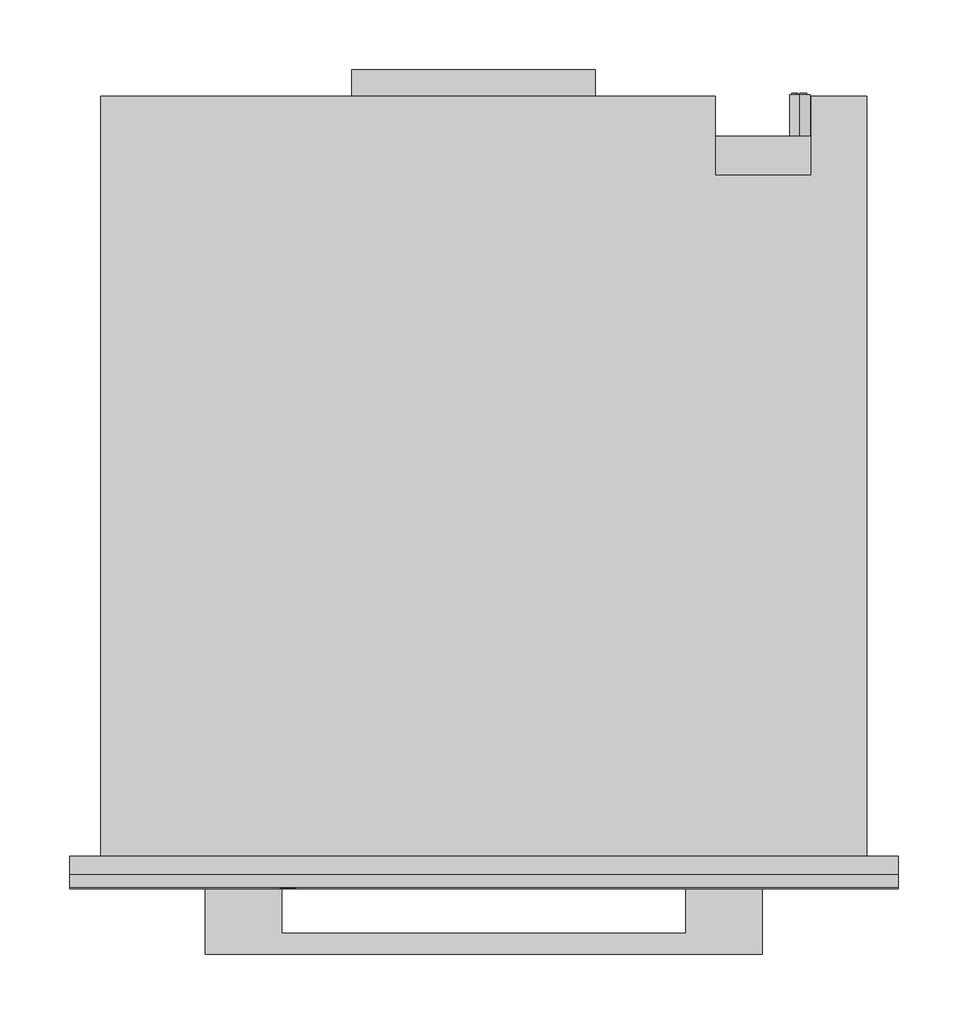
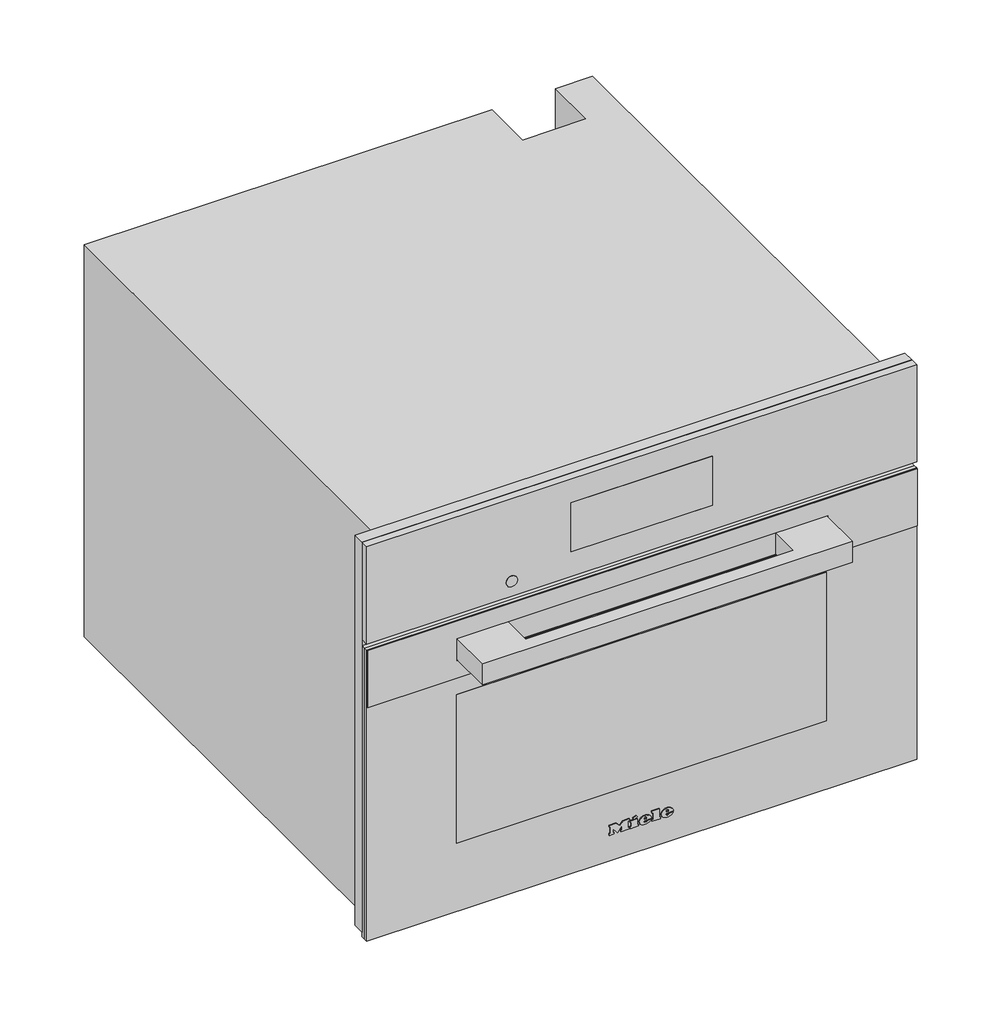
# Not in any storey: 1 proxy.
"""IFC4 building model written with IfcOpenShell, lengths in millimetres."""

import ifcopenshell
import ifcopenshell.guid

model = None  # the IFC model being written
_history = None  # IfcOwnerHistory: only IFC2X3 demands one
_inside = {}  # id of a spatial element -> (the spatial element, [elements in it])
_under = {}  # id of a project, library or spatial element -> (it, [spatial elements below it])
_declared = {}  # id of a project -> (the project, [libraries it declares])
_typed = {}  # id of a type object -> (the type object, [elements of that type])
_made_of = {}  # id of a material, layer set ... -> (it, [elements and type objects made of it])


def new_model(schema):
    """Start an empty IFC model of exactly this schema.

    Asked for "IFC4X3", IfcOpenShell would pick the latest addendum, in which some entities
    have other attributes; the version numbers below select the first issue.
    IFC2X3 requires an IfcOwnerHistory on every rooted entity: one is made here for all.
    """
    global model, _history
    if schema == "IFC4X3":
        model = ifcopenshell.file(schema_version=(4, 3, 0, 0))
    else:
        model = ifcopenshell.file(schema=schema)
    _inside.clear()
    _under.clear()
    _declared.clear()
    _typed.clear()
    _made_of.clear()
    _history = None
    if model.schema == "IFC2X3":
        org = make("IfcOrganization", Name="unknown")
        user = make(
            "IfcPersonAndOrganization",
            ThePerson=make("IfcPerson", FamilyName="unknown"),
            TheOrganization=org,
        )
        app = make(
            "IfcApplication",
            ApplicationDeveloper=org,
            Version="unknown",
            ApplicationFullName="unknown",
            ApplicationIdentifier="unknown",
        )
        _history = make(
            "IfcOwnerHistory",
            OwningUser=user,
            OwningApplication=app,
            ChangeAction="ADDED",
            CreationDate=0,
        )
    return model


def make(cls, **values):
    """One entity of the class cls with the attributes given. An attribute that is None is left unset."""
    return model.create_entity(
        cls, **{name: value for name, value in values.items() if value is not None}
    )


def rooted(cls, **values):
    """An entity with a GlobalId (a new one), such as an element, a storey or a relation."""
    return make(cls, GlobalId=ifcopenshell.guid.new(), OwnerHistory=_history, **values)


def si_unit(unit_type, name, prefix=None):
    """IfcSIUnit, for example si_unit("LENGTHUNIT", "METRE", prefix="MILLI")."""
    return make("IfcSIUnit", UnitType=unit_type, Prefix=prefix, Name=name)


def assignment(units):
    """IfcUnitAssignment: the units of a project."""
    return None if units is None else make("IfcUnitAssignment", Units=units)


def point(xyz):
    """IfcCartesianPoint."""
    return None if xyz is None else make("IfcCartesianPoint", Coordinates=xyz)


def direction(xyz):
    """IfcDirection."""
    return None if xyz is None else make("IfcDirection", DirectionRatios=xyz)


def frame(location, z_axis=None, x_axis=None):
    """IfcAxis2Placement3D, a coordinate frame: its origin and axes. An axis left out is left unset."""
    return make(
        "IfcAxis2Placement3D",
        Location=point(location),
        Axis=direction(z_axis),
        RefDirection=direction(x_axis),
    )


def frame_2d(location, x_axis=None):
    """IfcAxis2Placement2D, a coordinate frame in the plane: its origin and x axis."""
    return make(
        "IfcAxis2Placement2D", Location=point(location), RefDirection=direction(x_axis)
    )


def origin():
    """The frame at (0, 0, 0) with its axes left unset."""
    return frame((0.0, 0.0, 0.0))


def place(relative_to, where):
    """IfcLocalPlacement: puts the frame where relative to a parent placement (None: the world)."""
    return make(
        "IfcLocalPlacement", PlacementRelTo=relative_to, RelativePlacement=where
    )


def context(
    kind, dimensions, precision=None, world=None, true_north=None, identifier=None
):
    """IfcGeometricRepresentationContext, for example the 3D "Model" context."""
    return make(
        "IfcGeometricRepresentationContext",
        ContextIdentifier=identifier,
        ContextType=kind,
        CoordinateSpaceDimension=dimensions,
        Precision=precision,
        WorldCoordinateSystem=world,
        TrueNorth=true_north,
    )


def project(units=None, contexts=None):
    """IfcProject with its units and contexts."""
    return rooted(
        "IfcProject",
        Name="project",
        RepresentationContexts=contexts,
        UnitsInContext=assignment(units),
    )


def spatial(cls, under=None, at=None, **own):
    """A site, building, storey or space (cls), placed at a placement, below another one or the project."""
    s = rooted(cls, ObjectPlacement=at, **own)
    if under is not None:
        _under.setdefault(under.id(), (under, []))[1].append(s)
    return s


def polyline(points):
    """IfcPolyline through the points."""
    return make("IfcPolyline", Points=[point(p) for p in points])


def circle_curve(where, radius):
    """IfcCircle in the frame where."""
    return make("IfcCircle", Position=where, Radius=radius)


def ellipse_curve(where, semi_axis1, semi_axis2):
    """IfcEllipse in the frame where."""
    return make(
        "IfcEllipse", Position=where, SemiAxis1=semi_axis1, SemiAxis2=semi_axis2
    )


def trimmed(basis, trim1, trim2, sense, master):
    """IfcTrimmedCurve: the piece of a basis curve between two trims."""
    return make(
        "IfcTrimmedCurve",
        BasisCurve=basis,
        Trim1=trim1,
        Trim2=trim2,
        SenseAgreement=sense,
        MasterRepresentation=master,
    )


def segment(curve, same_sense, transition):
    """IfcCompositeCurveSegment."""
    return make(
        "IfcCompositeCurveSegment",
        Transition=transition,
        SameSense=same_sense,
        ParentCurve=curve,
    )


def composite_curve(segments, self_intersect=None):
    """IfcCompositeCurve: segments joined end to end."""
    return make("IfcCompositeCurve", Segments=segments, SelfIntersect=self_intersect)


def outline(outer, holes=None, kind="AREA"):
    """IfcArbitraryClosedProfileDef: a profile drawn as a closed curve; with holes, ...WithVoids."""
    if holes is None:
        return make("IfcArbitraryClosedProfileDef", ProfileType=kind, OuterCurve=outer)
    return make(
        "IfcArbitraryProfileDefWithVoids",
        ProfileType=kind,
        OuterCurve=outer,
        InnerCurves=holes,
    )


def extrude(swept, where, along, depth):
    """IfcExtrudedAreaSolid: the profile swept, set in the frame where, extruded along a direction by depth."""
    return make(
        "IfcExtrudedAreaSolid",
        SweptArea=swept,
        Position=where,
        ExtrudedDirection=direction(along),
        Depth=depth,
    )


def faces_of(points, faces, orient=None, outer=None):
    """IfcFace entities. A face is a list of loops; a loop is a list of indices into points, from 0.

    orient and outer hold one flag for each loop. By default every Orientation is true, the
    first loop of a face is its IfcFaceOuterBound and the others are IfcFaceBound.
    """
    made = []
    for i, loops in enumerate(faces):
        bounds = []
        for j, loop in enumerate(loops):
            is_outer = j == 0 if outer is None else outer[i][j]
            bounds.append(
                make(
                    "IfcFaceOuterBound" if is_outer else "IfcFaceBound",
                    Bound=make("IfcPolyLoop", Polygon=[points[k] for k in loop]),
                    Orientation=True if orient is None else orient[i][j],
                )
            )
        made.append(make("IfcFace", Bounds=bounds))
    return made


def faceted_brep(points, faces, orient=None, outer=None, voids=None):
    """IfcFacetedBrep: a solid bounded by flat faces; with voids (closed shells), ...WithVoids."""
    shared = [point(p) for p in points]
    hull = make("IfcClosedShell", CfsFaces=faces_of(shared, faces, orient, outer))
    if voids is None:
        return make("IfcFacetedBrep", Outer=hull)
    return make(
        "IfcFacetedBrepWithVoids",
        Outer=hull,
        Voids=[
            make(cls, CfsFaces=faces_of(shared, fs, o, b)) for cls, fs, o, b in voids
        ],
    )


def shape(context_of_items, identifier, shape_type, items):
    """IfcShapeRepresentation: the items that make up one representation, for example the "Body"."""
    return make(
        "IfcShapeRepresentation",
        ContextOfItems=context_of_items,
        RepresentationIdentifier=identifier,
        RepresentationType=shape_type,
        Items=items,
    )


def source(mapping_origin, context_of_items, identifier, shape_type, items):
    """IfcRepresentationMap: a shape defined once, which mapped items show again and again."""
    return make(
        "IfcRepresentationMap",
        MappingOrigin=mapping_origin,
        MappedRepresentation=shape(context_of_items, identifier, shape_type, items),
    )


def transform(
    local_origin,
    x_axis=None,
    y_axis=None,
    z_axis=None,
    scale=None,
    scale2=None,
    scale3=None,
    uniform=True,
):
    """IfcCartesianTransformationOperator3D, or its non-uniform kind. x_axis, y_axis, z_axis: its Axis1, 2, 3."""
    if uniform:
        return make(
            "IfcCartesianTransformationOperator3D",
            Axis1=direction(x_axis),
            Axis2=direction(y_axis),
            LocalOrigin=point(local_origin),
            Scale=scale,
            Axis3=direction(z_axis),
        )
    return make(
        "IfcCartesianTransformationOperator3DnonUniform",
        Axis1=direction(x_axis),
        Axis2=direction(y_axis),
        LocalOrigin=point(local_origin),
        Scale=scale,
        Axis3=direction(z_axis),
        Scale2=scale2,
        Scale3=scale3,
    )


def mapped(mapping_source, mapping_target):
    """IfcMappedItem: shows the shape of a source again, moved by a transform."""
    return make(
        "IfcMappedItem", MappingSource=mapping_source, MappingTarget=mapping_target
    )


def made_of(thing, what):
    """Note that an element or type object is made of a material, layer set ...; save() writes the relation."""
    if what is not None:
        _made_of.setdefault(what.id(), (what, []))[1].append(thing)
    return thing


def element(
    cls,
    number,
    at=None,
    inside=None,
    cuts=None,
    type_object=None,
    material=None,
    context=None,
    identifier="Body",
    shape_type=None,
    held_by="IfcProductDefinitionShape",
    body=None,
    shapes=None,
    **own,
):
    """One element of the class cls, such as IfcWall. Its Tag is "e" and its number.

    at: its placement. inside: the storey or other place that contains it. cuts: it is an
    opening in that element (IfcRelVoidsElement). A single representation is given by context,
    identifier, shape_type and body (its items); several are given by shapes. held_by: the class
    of the entity that holds the representations. save() writes the other relations.
    """
    e = rooted(cls, Tag="e%d" % number, ObjectPlacement=at, **own)
    if body is not None:
        shapes = [shape(context, identifier, shape_type, body)]
    if shapes is not None:
        e.Representation = make(held_by, Representations=shapes)
    if inside is not None:
        _inside.setdefault(inside.id(), (inside, []))[1].append(e)
    if cuts is not None:
        rooted(
            "IfcRelVoidsElement", RelatingBuildingElement=cuts, RelatedOpeningElement=e
        )
    if type_object is not None:
        _typed.setdefault(type_object.id(), (type_object, []))[1].append(e)
    return made_of(e, material)


def aggregate(whole, parts):
    """IfcRelAggregates: a whole, such as a stair, and the parts it consists of."""
    return rooted("IfcRelAggregates", RelatingObject=whole, RelatedObjects=parts)


def save(model, path):
    """Write the relations noted so far, then the file.

    IfcRelAggregates (storeys below a building ...), IfcRelContainedInSpatialStructure (elements
    in a storey), IfcRelDefinesByType, IfcRelAssociatesMaterial and IfcRelDeclares: one each for
    every whole, place, type object, material and project.
    """
    for whole, parts in _under.values():
        aggregate(whole, parts)
    for where, things in _inside.values():
        rooted(
            "IfcRelContainedInSpatialStructure",
            RelatedElements=things,
            RelatingStructure=where,
        )
    for kind, things in _typed.values():
        rooted("IfcRelDefinesByType", RelatedObjects=things, RelatingType=kind)
    for what, things in _made_of.values():
        rooted("IfcRelAssociatesMaterial", RelatedObjects=things, RelatingMaterial=what)
    for by, libraries in _declared.values():
        rooted("IfcRelDeclares", RelatingContext=by, RelatedDefinitions=libraries)
    model.write(path)


def plane_surface(at):
    """IfcPlane: the flat surface through the origin of the frame at, square to its z axis."""
    return make("IfcPlane", Position=at)


def cylinder_surface(at, radius):
    """IfcCylindricalSurface: all points at the distance radius from the z axis of the frame at."""
    return make("IfcCylindricalSurface", Position=at, Radius=radius)


def revolved_surface(curve, axis_point, axis_direction):
    """IfcSurfaceOfRevolution: the curve turned about the line through axis_point along axis_direction."""
    return make(
        "IfcSurfaceOfRevolution",
        SweptCurve=make("IfcArbitraryOpenProfileDef", ProfileType="CURVE", Curve=curve),
        AxisPosition=make("IfcAxis1Placement", Location=point(axis_point), Axis=direction(axis_direction)),
    )


def extruded_surface(curve, direction_of_extrusion, depth):
    """IfcSurfaceOfLinearExtrusion: the curve pushed along a direction by depth."""
    return make(
        "IfcSurfaceOfLinearExtrusion",
        SweptCurve=make("IfcArbitraryOpenProfileDef", ProfileType="CURVE", Curve=curve),
        ExtrudedDirection=direction(direction_of_extrusion),
        Depth=depth,
    )


def advanced_brep(points, edges, surfaces, faces):
    """IfcAdvancedBrep: a solid bounded by faces that lie on surfaces and meet in shared edges.

    An edge is (start, end): straight between two places in points (the first is 0);
    or (start, end, curve); or (start, end, curve, False) where it runs against its curve.
    A face is (place in surfaces, loops), or (place, loops, False) where it looks against
    its surface's normal. A loop lists edges by number (the first is 1), with a minus sign
    where the edge is run from its end to its start. The first loop is the outer one.
    """
    corners = [point(p) for p in points]
    vertices = [make("IfcVertexPoint", VertexGeometry=c) for c in corners]
    made = []
    for start, end, *more in edges:
        made.append(
            make(
                "IfcEdgeCurve",
                EdgeStart=vertices[start],
                EdgeEnd=vertices[end],
                EdgeGeometry=more[0] if more else make("IfcPolyline", Points=[corners[start], corners[end]]),
                SameSense=more[1] if len(more) > 1 else True,
            )
        )
    hull = []
    for where, loops, *sense in faces:
        bounds = []
        for j, loop in enumerate(loops):
            ring = [make("IfcOrientedEdge", EdgeElement=made[abs(k) - 1], Orientation=k > 0) for k in loop]
            bounds.append(
                make(
                    "IfcFaceOuterBound" if j == 0 else "IfcFaceBound",
                    Bound=make("IfcEdgeLoop", EdgeList=ring),
                    Orientation=True,
                )
            )
        hull.append(make("IfcAdvancedFace", Bounds=bounds, FaceSurface=surfaces[where], SameSense=sense[0] if sense else True))
    return make("IfcAdvancedBrep", Outer=make("IfcClosedShell", CfsFaces=hull))


def specialty_equipment_723d5806(model_context):
    return source(origin(), model_context, "Body", "SolidModel", [
        extrude(outline(polyline([(455.0, 297.5), (455.0, -297.5), (9.0, -297.5), (9.0, 297.5), (455.0, 297.5)]), holes=[polyline([(344.0, -272.5), (344.0, 272.5), (27.0, 272.5), (27.0, -272.5), (344.0, -272.5)])]), frame((0.0, -13.0, 0.0), z_axis=(0.0, 1.0, 0.0), x_axis=(0.0, 0.0, 1.0)), (0.0, 0.0, 1.0), 13.0),
        extrude(outline(polyline([(-95.0, 565.0), (80.0, 565.0), (80.0, 546.0), (-95.0, 546.0), (-95.0, 565.0)])), frame((0.0, 0.0, 260.0), z_axis=(0.0, 0.0, 1.0), x_axis=(1.0, 0.0, 0.0)), (0.0, 0.0, 1.0), 1.0),
        advanced_brep(
        [(227.0, 547.0, 255.5), (227.0, 547.0, 240.5), (221.4098301, 547.0, 243.0), (225.5, 547.0, 243.0), (225.5, 547.0, 253.0), (224.4955303, 547.0, 253.0), (224.4955303, 547.0, 244.0), (221.0315043, 547.0, 244.0), (221.0315043, 547.0, 243.4582978), (232.0, 547.0, 243.0), (232.0, 547.0, 253.0), (227.0, 547.0, 253.0), (227.0, 547.0, 252.0), (231.0, 547.0, 252.0), (231.0, 547.0, 248.5), (228.0, 547.0, 248.5), (228.0, 547.0, 247.5), (231.0, 547.0, 247.5), (231.0, 547.0, 244.0), (227.0, 547.0, 244.0), (227.0, 547.0, 243.0), (227.0, 517.0, 240.5), (227.0, 517.0, 255.5), (232.0, 548.0, 253.0), (232.0, 548.0, 243.0), (227.0, 548.0, 243.0), (227.0, 548.0, 244.0), (231.0, 548.0, 244.0), (231.0, 548.0, 247.5), (228.0, 548.0, 247.5), (228.0, 548.0, 248.5), (231.0, 548.0, 248.5), (231.0, 548.0, 252.0), (227.0, 548.0, 252.0), (227.0, 548.0, 253.0), (225.5, 548.0, 243.0), (221.0315043, 548.0, 243.0), (221.0315043, 548.0, 244.0), (224.4955303, 548.0, 244.0), (224.4955303, 548.0, 253.0), (225.5, 548.0, 253.0), (221.0315043, 547.0, 243.0)],
        [
            (0, 1, circle_curve(frame((227.0, 547.0, 248.0), z_axis=(0.0, 1.0, 0.0), x_axis=(0.0, 0.0, 1.0)), 7.5)),
            (1, 2, circle_curve(frame((227.0, 547.0, 248.0), z_axis=(0.0, 1.0, 0.0), x_axis=(0.0, 0.0, 1.0)), 7.5)),
            (2, 3),
            (3, 4),
            (4, 5),
            (5, 6),
            (6, 7),
            (7, 8),
            (8, 0, circle_curve(frame((227.0, 547.0, 248.0), z_axis=(0.0, 1.0, 0.0), x_axis=(0.0, 0.0, 1.0)), 7.5)),
            (9, 10),
            (10, 11),
            (11, 12),
            (12, 13),
            (13, 14),
            (14, 15),
            (15, 16),
            (16, 17),
            (17, 18),
            (18, 19),
            (19, 20),
            (20, 9),
            (21, 22, circle_curve(frame((227.0, 517.0, 248.0), z_axis=(0.0, -1.0, 0.0), x_axis=(0.0, 0.0, 1.0)), 7.5)),
            (22, 21, circle_curve(frame((227.0, 517.0, 248.0), z_axis=(0.0, -1.0, 0.0), x_axis=(0.0, 0.0, 1.0)), 7.5)),
            (0, 22),
            (21, 1),
            (8, 2, circle_curve(frame((227.0, 547.0, 248.0), z_axis=(0.0, -1.0, 0.0), x_axis=(0.0, 0.0, 1.0)), 7.5)),
            (23, 24),
            (24, 25),
            (25, 26),
            (26, 27),
            (27, 28),
            (28, 29),
            (29, 30),
            (30, 31),
            (31, 32),
            (32, 33),
            (33, 34),
            (34, 23),
            (35, 36),
            (36, 37),
            (37, 38),
            (38, 39),
            (39, 40),
            (40, 35),
            (8, 41),
            (41, 2),
            (23, 10),
            (9, 24),
            (20, 25),
            (19, 26),
            (18, 27),
            (17, 28),
            (16, 29),
            (15, 30),
            (14, 31),
            (13, 32),
            (12, 33),
            (11, 34),
            (35, 3),
            (41, 36),
            (7, 37),
            (6, 38),
            (5, 39),
            (4, 40),
        ],
        [
            plane_surface(frame((227.0, 547.0, 255.5), z_axis=(0.0, 1.0, 0.0), x_axis=(1.0, 0.0, 0.0))),
            plane_surface(frame((227.0, 517.0, 255.5), z_axis=(0.0, -1.0, 0.0), x_axis=(-1.0, 0.0, 0.0))),
            cylinder_surface(frame((227.0, 547.0, 248.0), z_axis=(0.0, -1.0, 0.0), x_axis=(0.0, 0.0, 1.0)), 7.5),
            plane_surface(frame((232.0, 548.0, 253.0), z_axis=(0.0, 1.0, 0.0), x_axis=(0.0, 0.0, -1.0))),
            plane_surface(frame((232.0, 547.0, 253.0), z_axis=(0.0, -1.0, 0.0), x_axis=(0.0, 0.0, 1.0))),
            plane_surface(frame((232.0, 548.0, 253.0), z_axis=(1.0, 0.0, 0.0), x_axis=(0.0, -1.0, 0.0))),
            plane_surface(frame((232.0, 548.0, 243.0), z_axis=(0.0, 0.0, -1.0), x_axis=(0.0, -1.0, 0.0))),
            plane_surface(frame((227.0, 548.0, 243.0), z_axis=(-1.0, 0.0, 0.0), x_axis=(0.0, -1.0, 0.0))),
            plane_surface(frame((227.0, 548.0, 244.0), z_axis=(0.0, 0.0, 1.0), x_axis=(0.0, -1.0, 0.0))),
            plane_surface(frame((231.0, 548.0, 244.0), z_axis=(-1.0, 0.0, 0.0), x_axis=(0.0, -1.0, 0.0))),
            plane_surface(frame((231.0, 548.0, 247.5), z_axis=(0.0, 0.0, -1.0), x_axis=(0.0, -1.0, 0.0))),
            plane_surface(frame((228.0, 548.0, 247.5), z_axis=(-1.0, 0.0, 0.0), x_axis=(0.0, -1.0, 0.0))),
            plane_surface(frame((228.0, 548.0, 248.5), z_axis=(0.0, 0.0, 1.0), x_axis=(0.0, -1.0, 0.0))),
            plane_surface(frame((231.0, 548.0, 248.5), z_axis=(-1.0, 0.0, 0.0), x_axis=(0.0, -1.0, 0.0))),
            plane_surface(frame((231.0, 548.0, 252.0), z_axis=(0.0, 0.0, -1.0), x_axis=(0.0, -1.0, 0.0))),
            plane_surface(frame((227.0, 548.0, 252.0), z_axis=(-1.0, 0.0, 0.0), x_axis=(0.0, -1.0, 0.0))),
            plane_surface(frame((227.0, 548.0, 253.0), z_axis=(0.0, 0.0, 1.0), x_axis=(0.0, -1.0, 0.0))),
            plane_surface(frame((225.5, 548.0, 243.0), z_axis=(0.0, 0.0, -1.0), x_axis=(0.0, -1.0, 0.0))),
            plane_surface(frame((221.0315043, 548.0, 243.0), z_axis=(-1.0, 0.0, 0.0), x_axis=(0.0, -1.0, 0.0))),
            plane_surface(frame((221.0315043, 548.0, 244.0), z_axis=(0.0, 0.0, 1.0), x_axis=(0.0, -1.0, 0.0))),
            plane_surface(frame((224.4955303, 548.0, 244.0), z_axis=(-1.0, 0.0, 0.0), x_axis=(0.0, -1.0, 0.0))),
            plane_surface(frame((224.4955303, 548.0, 253.0), z_axis=(0.0, 0.0, 1.0), x_axis=(0.0, -1.0, 0.0))),
            plane_surface(frame((225.5, 548.0, 253.0), z_axis=(1.0, 0.0, 0.0), x_axis=(0.0, -1.0, 0.0))),
        ],
        [
            (0, [[1, 2, 3, 4, 5, 6, 7, 8, 9], [10, 11, 12, 13, 14, 15, 16, 17, 18, 19, 20, 21]]),
            (1, [[22, 23]]),
            (2, [[-1, 24, -22, 25]]),
            (2, [[-23, -24, -9, 26, -2, -25]]),
            (3, [[27, 28, 29, 30, 31, 32, 33, 34, 35, 36, 37, 38]]),
            (3, [[39, 40, 41, 42, 43, 44]]),
            (4, [[45, 46, -26]]),
            (5, [[-27, 47, -10, 48]]),
            (6, [[-28, -48, -21, 49]]),
            (7, [[-29, -49, -20, 50]]),
            (8, [[-30, -50, -19, 51]]),
            (9, [[-31, -51, -18, 52]]),
            (10, [[-32, -52, -17, 53]]),
            (11, [[-33, -53, -16, 54]]),
            (12, [[-34, -54, -15, 55]]),
            (13, [[-35, -55, -14, 56]]),
            (14, [[-36, -56, -13, 57]]),
            (15, [[-37, -57, -12, 58]]),
            (16, [[-38, -58, -11, -47]]),
            (17, [[-39, 59, -3, -46, 60]]),
            (18, [[-40, -60, -45, -8, 61]]),
            (19, [[-41, -61, -7, 62]]),
            (20, [[-42, -62, -6, 63]]),
            (21, [[-43, -63, -5, 64]]),
            (22, [[-44, -64, -4, -59]]),
        ],
    ),
        faceted_brep([(-275.0, 546.0, 0.0), (-275.0, 546.0, 448.0), (166.0, 546.0, 448.0), (166.0, 546.0, 0.0), (235.0, 546.0, 448.0), (275.0, 546.0, 448.0), (275.0, 546.0, 338.0), (235.0, 546.0, 338.0), (275.0, 0.0, 448.0), (-275.0, 0.0, 448.0), (-275.0, 0.0, 0.0), (275.0, 0.0, 0.0), (-272.5, 0.0, 344.0), (272.5, 0.0, 344.0), (272.5, 0.0, 27.0), (-272.5, 0.0, 27.0), (235.0, 489.0, 448.0), (166.0, 489.0, 448.0), (166.0, 517.0, 0.0), (275.0, 517.0, 0.0), (275.0, 517.0, 338.0), (272.5, 17.0, 344.0), (-272.5, 17.0, 344.0), (-272.5, 17.0, 27.0), (272.5, 17.0, 27.0), (231.0, 17.0, 307.0), (231.0, 17.0, 65.0), (-231.0, 17.0, 65.0), (-231.0, 17.0, 307.0), (231.0, 411.0, 307.0), (-231.0, 411.0, 307.0), (-231.0, 411.0, 65.0), (231.0, 411.0, 65.0), (235.0, 489.0, 337.0), (166.0, 489.0, 337.0), (166.0, 517.0, 337.0), (235.0, 517.0, 337.0), (235.0, 517.0, 338.0)], [[[0, 1, 2, 3]], [[4, 5, 6, 7]], [[8, 9, 10, 11], [12, 13, 14, 15]], [[9, 8, 5, 4, 16, 17, 2, 1]], [[1, 0, 10, 9]], [[11, 10, 0, 3, 18, 19]], [[8, 11, 19, 20, 6, 5]], [[21, 22, 23, 24], [25, 26, 27, 28]], [[22, 21, 13, 12]], [[23, 22, 12, 15]], [[24, 23, 15, 14]], [[21, 24, 14, 13]], [[29, 30, 31, 32]], [[29, 32, 26, 25]], [[32, 31, 27, 26]], [[31, 30, 28, 27]], [[30, 29, 25, 28]], [[16, 33, 34, 17]], [[17, 34, 35, 18, 3, 2]], [[34, 33, 36, 35]], [[33, 16, 4, 7, 37, 36]], [[37, 20, 19, 18, 35, 36]], [[20, 37, 7, 6]]]),
        advanced_brep(
        [(26.2998, -23.0, 36.7018), (26.2998, -23.0, 37.8532), (33.9264, -23.0, 37.8532), (20.6568, -23.0, 37.8532), (23.7918, -23.0, 34.0), (33.7326, -23.0, 36.7018), (30.2898, -23.0, 36.7018), (27.5766, -23.0, 35.425), (26.2998, -23.0, 39.3124), (26.2998, -23.0, 40.555), (28.2492, -23.0, 40.555), (28.2492, -23.0, 39.3124), (26.2998, -22.0, 36.7018), (27.5766, -22.0, 35.425), (30.2898, -22.0, 36.7018), (33.7326, -22.0, 36.7018), (23.7918, -22.0, 34.0), (20.6568, -22.0, 37.8532), (33.9264, -22.0, 37.8532), (26.2998, -22.0, 37.8532), (26.2998, -22.0, 39.3124), (28.2492, -22.0, 39.3124), (28.2492, -22.0, 40.555), (26.2998, -22.0, 40.555)],
        [
            (0, 1),
            (1, 2),
            (2, 3, ellipse_curve(frame((27.2916, -23.0, 37.8532), z_axis=(0.0, -1.0, 0.0), x_axis=(-1.0, 0.0, 0.0)), 6.6348, 5.4834)),
            (3, 4, circle_curve(frame((25.0686622, -23.0, 38.2408), z_axis=(0.0, -1.0, 0.0), x_axis=(0.0, 0.0, -1.0)), 4.4288556)),
            (4, 5, circle_curve(frame((27.1587808, -23.0, 41.2504), z_axis=(0.0, -1.0, 0.0), x_axis=(0.0, 0.0, -1.0)), 7.9940516)),
            (5, 6),
            (6, 7, circle_curve(frame((28.1338588, -23.0, 37.762), z_axis=(0.0, 1.0, 0.0), x_axis=(0.0, 0.0, -1.0)), 2.4025208)),
            (7, 0, circle_curve(frame((27.5766, -23.0, 36.7018), z_axis=(0.0, 1.0, 0.0), x_axis=(0.0, 0.0, -1.0)), 1.2768)),
            (8, 9),
            (9, 10, circle_curve(frame((27.2745, -23.0, 40.555), z_axis=(0.0, 1.0, 0.0), x_axis=(0.0, 0.0, -1.0)), 0.9747)),
            (10, 11),
            (11, 8),
            (12, 13, circle_curve(frame((27.5766, -22.0, 36.7018), z_axis=(0.0, -1.0, 0.0), x_axis=(0.0, 0.0, -1.0)), 1.2768)),
            (13, 14, circle_curve(frame((28.1338588, -22.0, 37.762), z_axis=(0.0, -1.0, 0.0), x_axis=(0.0, 0.0, -1.0)), 2.4025208)),
            (14, 15),
            (15, 16, circle_curve(frame((27.1587808, -22.0, 41.2504), z_axis=(0.0, 1.0, 0.0), x_axis=(0.0, 0.0, -1.0)), 7.9940516)),
            (16, 17, circle_curve(frame((25.0686622, -22.0, 38.2408), z_axis=(0.0, 1.0, 0.0), x_axis=(0.0, 0.0, -1.0)), 4.4288556)),
            (17, 18, ellipse_curve(frame((27.2916, -22.0, 37.8532), z_axis=(0.0, 1.0, 0.0), x_axis=(-1.0, 0.0, 0.0)), 6.6348, 5.4834)),
            (18, 19),
            (19, 12),
            (20, 21),
            (21, 22),
            (22, 23, circle_curve(frame((27.2745, -22.0, 40.555), z_axis=(0.0, -1.0, 0.0), x_axis=(0.0, 0.0, -1.0)), 0.9747)),
            (23, 20),
            (0, 12),
            (19, 1),
            (18, 2),
            (5, 15),
            (14, 6),
            (17, 3),
            (13, 7),
            (16, 4),
            (8, 20),
            (23, 9),
            (22, 10),
            (21, 11),
        ],
        [
            plane_surface(frame((26.2998, -23.0, 37.8532), z_axis=(0.0, -1.0, 0.0), x_axis=(0.0, 0.0, 1.0))),
            plane_surface(frame((26.2998, -22.0, 37.8532), z_axis=(0.0, 1.0, 0.0), x_axis=(0.0, 0.0, -1.0))),
            plane_surface(frame((26.2998, -23.0, 36.7018), z_axis=(1.0, 0.0, 0.0), x_axis=(0.0, 1.0, 0.0))),
            plane_surface(frame((26.2998, -23.0, 37.8532), z_axis=(0.0, 0.0, -1.0), x_axis=(0.0, 1.0, 0.0))),
            plane_surface(frame((33.7326, -23.0, 36.7018), z_axis=(0.0, 0.0, 1.0), x_axis=(0.0, 1.0, 0.0))),
            extruded_surface(trimmed(ellipse_curve(frame((27.2916, -21.0, 37.8532), z_axis=(0.0, -1.0, 0.0), x_axis=(-1.0, 0.0, 0.0)), 6.6348, 5.4834), [point((33.9264, -21.0, 37.8532))], [point((20.6568, -21.0, 37.8532))], True, "CARTESIAN"), (0.0, -1.0, 0.0), 1.0),
            revolved_surface(polyline([(28.1338588, -22.0, 35.3594792), (28.1338588, -23.0, 35.3594792)]), (28.1338588, -22.0, 37.762), (0.0, 1.0, 0.0)),
            revolved_surface(polyline([(27.5766, -22.0, 35.425), (27.5766, -23.0, 35.425)]), (27.5766, -22.0, 36.7018), (0.0, 1.0, 0.0)),
            cylinder_surface(frame((25.0686622, -22.0, 38.2408), z_axis=(0.0, -1.0, 0.0), x_axis=(0.0, 0.0, -1.0)), 4.4288556),
            cylinder_surface(frame((27.1587808, -22.0, 41.2504), z_axis=(0.0, -1.0, 0.0), x_axis=(0.0, 0.0, -1.0)), 7.9940516),
            plane_surface(frame((26.2998, -23.0, 39.3124), z_axis=(1.0, 0.0, 0.0), x_axis=(0.0, 1.0, 0.0))),
            revolved_surface(polyline([(27.2745, -22.0, 39.5803), (27.2745, -23.0, 39.5803)]), (27.2745, -22.0, 40.555), (0.0, 1.0, 0.0)),
            plane_surface(frame((28.2492, -23.0, 40.555), z_axis=(-1.0, 0.0, 0.0), x_axis=(0.0, 1.0, 0.0))),
            plane_surface(frame((28.2492, -23.0, 39.3124), z_axis=(0.0, 0.0, 1.0), x_axis=(0.0, 1.0, 0.0))),
        ],
        [
            (0, [[1, 2, 3, 4, 5, 6, 7, 8], [9, 10, 11, 12]]),
            (1, [[13, 14, 15, 16, 17, 18, 19, 20], [21, 22, 23, 24]]),
            (2, [[-1, 25, -20, 26]]),
            (3, [[-2, -26, -19, 27]]),
            (4, [[-6, 28, -15, 29]]),
            (5, [[-3, -27, -18, 30]]),
            (6, [[-7, -29, -14, 31]]),
            (7, [[-8, -31, -13, -25]]),
            (8, [[-4, -30, -17, 32]]),
            (9, [[-5, -32, -16, -28]]),
            (10, [[-9, 33, -24, 34]]),
            (11, [[-10, -34, -23, 35]]),
            (12, [[-11, -35, -22, 36]]),
            (13, [[-12, -36, -21, -33]]),
        ],
    ),
        advanced_brep(
        [(2.508, -23.0, 36.7018), (2.508, -23.0, 37.8532), (10.1346, -23.0, 37.8532), (-3.135, -23.0, 37.8532), (0.0, -23.0, 34.0), (9.9408, -23.0, 36.7018), (6.498, -23.0, 36.7018), (3.7848, -23.0, 35.425), (2.508, -23.0, 39.3124), (2.508, -23.0, 40.555), (4.4574, -23.0, 40.555), (4.4574, -23.0, 39.3124), (2.508, -22.0, 36.7018), (3.7848, -22.0, 35.425), (6.498, -22.0, 36.7018), (9.9408, -22.0, 36.7018), (0.0, -22.0, 34.0), (-3.135, -22.0, 37.8532), (10.1346, -22.0, 37.8532), (2.508, -22.0, 37.8532), (2.508, -22.0, 39.3124), (4.4574, -22.0, 39.3124), (4.4574, -22.0, 40.555), (2.508, -22.0, 40.555)],
        [
            (0, 1),
            (1, 2),
            (2, 3, ellipse_curve(frame((3.4998, -23.0, 37.8532), z_axis=(0.0, -1.0, 0.0), x_axis=(-1.0, 0.0, 0.0)), 6.6348, 5.4834)),
            (3, 4, circle_curve(frame((1.2768622, -23.0, 38.2408), z_axis=(0.0, -1.0, 0.0), x_axis=(0.0, 0.0, -1.0)), 4.4288556)),
            (4, 5, circle_curve(frame((3.3669808, -23.0, 41.2504), z_axis=(0.0, -1.0, 0.0), x_axis=(0.0, 0.0, -1.0)), 7.9940516)),
            (5, 6),
            (6, 7, circle_curve(frame((4.3420588, -23.0, 37.762), z_axis=(0.0, 1.0, 0.0), x_axis=(0.0, 0.0, -1.0)), 2.4025208)),
            (7, 0, circle_curve(frame((3.7848, -23.0, 36.7018), z_axis=(0.0, 1.0, 0.0), x_axis=(0.0, 0.0, -1.0)), 1.2768)),
            (8, 9),
            (9, 10, circle_curve(frame((3.4827, -23.0, 40.555), z_axis=(0.0, 1.0, 0.0), x_axis=(0.0, 0.0, -1.0)), 0.9747)),
            (10, 11),
            (11, 8),
            (12, 13, circle_curve(frame((3.7848, -22.0, 36.7018), z_axis=(0.0, -1.0, 0.0), x_axis=(0.0, 0.0, -1.0)), 1.2768)),
            (13, 14, circle_curve(frame((4.3420588, -22.0, 37.762), z_axis=(0.0, -1.0, 0.0), x_axis=(0.0, 0.0, -1.0)), 2.4025208)),
            (14, 15),
            (15, 16, circle_curve(frame((3.3669808, -22.0, 41.2504), z_axis=(0.0, 1.0, 0.0), x_axis=(0.0, 0.0, -1.0)), 7.9940516)),
            (16, 17, circle_curve(frame((1.2768622, -22.0, 38.2408), z_axis=(0.0, 1.0, 0.0), x_axis=(0.0, 0.0, -1.0)), 4.4288556)),
            (17, 18, ellipse_curve(frame((3.4998, -22.0, 37.8532), z_axis=(0.0, 1.0, 0.0), x_axis=(-1.0, 0.0, 0.0)), 6.6348, 5.4834)),
            (18, 19),
            (19, 12),
            (20, 21),
            (21, 22),
            (22, 23, circle_curve(frame((3.4827, -22.0, 40.555), z_axis=(0.0, -1.0, 0.0), x_axis=(0.0, 0.0, -1.0)), 0.9747)),
            (23, 20),
            (0, 12),
            (19, 1),
            (18, 2),
            (5, 15),
            (14, 6),
            (17, 3),
            (13, 7),
            (16, 4),
            (8, 20),
            (23, 9),
            (22, 10),
            (21, 11),
        ],
        [
            plane_surface(frame((2.508, -23.0, 37.8532), z_axis=(0.0, -1.0, 0.0), x_axis=(0.0, 0.0, 1.0))),
            plane_surface(frame((2.508, -22.0, 37.8532), z_axis=(0.0, 1.0, 0.0), x_axis=(0.0, 0.0, -1.0))),
            plane_surface(frame((2.508, -23.0, 36.7018), z_axis=(1.0, 0.0, 0.0), x_axis=(0.0, 1.0, 0.0))),
            plane_surface(frame((2.508, -23.0, 37.8532), z_axis=(0.0, 0.0, -1.0), x_axis=(0.0, 1.0, 0.0))),
            plane_surface(frame((9.9408, -23.0, 36.7018), z_axis=(0.0, 0.0, 1.0), x_axis=(0.0, 1.0, 0.0))),
            extruded_surface(trimmed(ellipse_curve(frame((3.4998, -21.0, 37.8532), z_axis=(0.0, -1.0, 0.0), x_axis=(-1.0, 0.0, 0.0)), 6.6348, 5.4834), [point((10.1346, -21.0, 37.8532))], [point((-3.135, -21.0, 37.8532))], True, "CARTESIAN"), (0.0, -1.0, 0.0), 1.0),
            revolved_surface(polyline([(4.3420588, -22.0, 35.3594792), (4.3420588, -23.0, 35.3594792)]), (4.3420588, -22.0, 37.762), (0.0, 1.0, 0.0)),
            revolved_surface(polyline([(3.7848, -22.0, 35.425), (3.7848, -23.0, 35.425)]), (3.7848, -22.0, 36.7018), (0.0, 1.0, 0.0)),
            cylinder_surface(frame((1.2768622, -22.0, 38.2408), z_axis=(0.0, -1.0, 0.0), x_axis=(0.0, 0.0, -1.0)), 4.4288556),
            cylinder_surface(frame((3.3669808, -22.0, 41.2504), z_axis=(0.0, -1.0, 0.0), x_axis=(0.0, 0.0, -1.0)), 7.9940516),
            plane_surface(frame((2.508, -23.0, 39.3124), z_axis=(1.0, 0.0, 0.0), x_axis=(0.0, 1.0, 0.0))),
            revolved_surface(polyline([(3.4827, -22.0, 39.5803), (3.4827, -23.0, 39.5803)]), (3.4827, -22.0, 40.555), (0.0, 1.0, 0.0)),
            plane_surface(frame((4.4574, -23.0, 40.555), z_axis=(-1.0, 0.0, 0.0), x_axis=(0.0, 1.0, 0.0))),
            plane_surface(frame((4.4574, -23.0, 39.3124), z_axis=(0.0, 0.0, 1.0), x_axis=(0.0, 1.0, 0.0))),
        ],
        [
            (0, [[1, 2, 3, 4, 5, 6, 7, 8], [9, 10, 11, 12]]),
            (1, [[13, 14, 15, 16, 17, 18, 19, 20], [21, 22, 23, 24]]),
            (2, [[-1, 25, -20, 26]]),
            (3, [[-2, -26, -19, 27]]),
            (4, [[-6, 28, -15, 29]]),
            (5, [[-3, -27, -18, 30]]),
            (6, [[-7, -29, -14, 31]]),
            (7, [[-8, -31, -13, -25]]),
            (8, [[-4, -30, -17, 32]]),
            (9, [[-5, -32, -16, -28]]),
            (10, [[-9, 33, -24, 34]]),
            (11, [[-10, -34, -23, 35]]),
            (12, [[-11, -35, -22, 36]]),
            (13, [[-12, -36, -21, -33]]),
        ],
    ),
        extrude(outline(polyline([(44.7274, -9.9522), (42.8806, -9.0858), (44.6818, -5.2212), (46.5286, -6.0762), (44.7274, -9.9522)])), frame((0.0, -23.0, 0.0), z_axis=(0.0, 1.0, 0.0), x_axis=(0.0, 0.0, 1.0)), (0.0, 0.0, 1.0), 1.0),
        extrude(outline(polyline([(42.6298, -12.768), (40.5892, -12.768), (40.5892, -11.4114), (35.9152, -11.4114), (35.9152, -12.768), (34.0, -12.768), (34.0, -3.7734), (35.9152, -3.7734), (35.9152, -5.0958), (42.6298, -5.0958), (42.6298, -12.768)])), frame((0.0, -23.0, 0.0), z_axis=(0.0, 1.0, 0.0), x_axis=(0.0, 0.0, 1.0)), (0.0, 0.0, 1.0), 1.0),
        extrude(outline(polyline([(43.5418, 10.773), (43.5418, 12.141), (35.9152, 12.141), (35.9152, 10.773), (34.0, 10.773), (34.0, 20.0184), (35.9152, 20.0184), (35.9152, 18.6162), (45.4, 18.6162), (45.4, 10.773), (43.5418, 10.773)])), frame((0.0, -23.0, 0.0), z_axis=(0.0, 1.0, 0.0), x_axis=(0.0, 0.0, 1.0)), (0.0, 0.0, 1.0), 1.0),
        extrude(outline(polyline([(43.5418, -35.4882), (43.5418, -34.1088), (35.9152, -34.1088), (35.9152, -35.4882), (34.0, -35.4882), (34.0, -30.4722), (35.9152, -30.4722), (35.9152, -31.8402), (40.7429247, -31.8402), (34.0, -26.7444), (40.9402223, -21.6258), (35.9152, -21.6258), (35.9152, -23.028), (34.0, -23.028), (34.0, -13.9308), (35.9152, -13.9308), (35.9152, -15.3786), (43.5418, -15.3786), (43.5418, -13.9308), (45.4, -13.9308), (45.4, -20.8734), (41.125, -24.2022), (45.4, -27.5424), (45.4, -35.4882), (43.5418, -35.4882)])), frame((0.0, -23.0, 0.0), z_axis=(0.0, 1.0, 0.0), x_axis=(0.0, 0.0, 1.0)), (0.0, 0.0, 1.0), 1.0),
        extrude(outline(composite_curve([segment(trimmed(circle_curve(frame_2d((361.0, -140.5745637)), 6.0), [point((361.0, -146.5745637))], [point((361.0, -134.5745637))], False, "CARTESIAN"), True, "CONTINUOUS"), segment(trimmed(circle_curve(frame_2d((361.0, -140.5745637)), 6.0), [point((361.0, -134.5745637))], [point((361.0, -146.5745637))], False, "CARTESIAN"), True, "CONTINUOUS")], self_intersect=False)), frame((0.0, -22.5, 0.0), z_axis=(0.0, 1.0, 0.0), x_axis=(0.0, 0.0, 1.0)), (0.0, 0.0, 1.0), 1.0),
        extrude(outline(polyline([(-76.5, -21.0), (76.5, -21.0), (76.5, -22.0), (-76.5, -22.0), (-76.5, -21.0)])), frame((0.0, 0.0, 372.0), z_axis=(0.0, 0.0, 1.0), x_axis=(1.0, 0.0, 0.0)), (0.0, 0.0, 1.0), 56.0),
        faceted_brep([(297.5, -22.0, 455.0), (-297.5, -22.0, 455.0), (-297.5, -22.0, 344.0), (297.5, -22.0, 344.0), (76.5, -22.0, 428.0), (76.5, -22.0, 372.0), (-76.5, -22.0, 372.0), (-76.5, -22.0, 428.0), (297.5, -13.0, 455.0), (297.5, -13.0, 344.0), (-297.5, -13.0, 344.0), (-297.5, -13.0, 455.0), (76.5, -21.0, 428.0), (-76.5, -21.0, 428.0), (-76.5, -21.0, 372.0), (76.5, -21.0, 372.0)], [[[0, 1, 2, 3], [4, 5, 6, 7]], [[8, 9, 10, 11]], [[1, 0, 8, 11]], [[2, 1, 11, 10]], [[3, 2, 10, 9]], [[0, 3, 9, 8]], [[12, 13, 14, 15]], [[12, 15, 5, 4]], [[15, 14, 6, 5]], [[14, 13, 7, 6]], [[13, 12, 4, 7]]]),
        extrude(outline(polyline([(200.0, -22.0), (-200.0, -22.0), (-200.0, -18.0), (200.0, -18.0), (200.0, -22.0)])), frame((0.0, 0.0, 82.0), z_axis=(0.0, 0.0, 1.0), x_axis=(1.0, 0.0, 0.0)), (0.0, 0.0, 1.0), 170.0),
        extrude(outline(polyline([(337.0, 297.5), (337.0, -297.5), (4.0, -297.5), (4.0, 297.5), (337.0, 297.5)]), holes=[polyline([(252.0, -200.0), (252.0, 200.0), (82.0, 200.0), (82.0, -200.0), (252.0, -200.0)])]), frame((0.0, -22.0, 0.0), z_axis=(0.0, 1.0, 0.0), x_axis=(0.0, 0.0, 1.0)), (0.0, 0.0, 1.0), 4.0),
        extrude(outline(polyline([(337.0, 297.5), (337.0, -297.5), (272.0, -297.5), (272.0, 297.5), (337.0, 297.5)]), holes=[polyline([(317.0, -200.5), (317.0, 200.5), (292.0, 200.5), (292.0, -200.5), (317.0, -200.5)])]), frame((0.0, -23.3, 0.0), z_axis=(0.0, 1.0, 0.0), x_axis=(0.0, 0.0, 1.0)), (0.0, 0.0, 1.0), 1.3),
        extrude(outline(polyline([(-200.0, -70.3), (-200.0, -22.0), (-145.0, -22.0), (-145.0, -55.3), (145.0, -55.3), (145.0, -22.0), (200.0, -22.0), (200.0, -70.3), (-200.0, -70.3)])), frame((0.0, 0.0, 292.5), z_axis=(0.0, 0.0, 1.0), x_axis=(1.0, 0.0, 0.0)), (0.0, 0.0, 1.0), 24.0),
        extrude(outline(polyline([(297.5, -18.0), (-297.5, -18.0), (-297.5, -13.0), (297.5, -13.0), (297.5, -18.0)])), frame((0.0, 0.0, 4.0), z_axis=(0.0, 0.0, 1.0), x_axis=(1.0, 0.0, 0.0)), (0.0, 0.0, 1.0), 333.0),
    ])


model = new_model("IFC4")

# Units and contexts
model_context = context("Model", 3, world=origin())
ifc_project = project(units=[si_unit("LENGTHUNIT", "METRE", prefix="MILLI")], contexts=[model_context])

# Site, building
site = spatial("IfcSite", under=ifc_project)
building = spatial("IfcBuilding", under=site)

# Proxy
placement = place(None, origin())
specialty_equipment_shape = specialty_equipment_723d5806(model_context)
element("IfcBuildingElementProxy", 1, Name="11876590_USA_DGC7840_EDST-CLST : 23784042_USA_11876590_DGC7840_EDST-CLST", ObjectType="11876590_USA_DGC7840_EDST-CLST : 23784042_USA_11876590_DGC7840_EDST-CLST", at=placement, inside=building, context=model_context, shape_type="MappedRepresentation", body=[
    mapped(specialty_equipment_shape, transform((0.0, 0.0, 0.0), x_axis=(1.0, 0.0, 0.0), y_axis=(0.0, 1.0, 0.0), z_axis=(0.0, 0.0, 1.0))),
])

save(model, "model.ifc")
